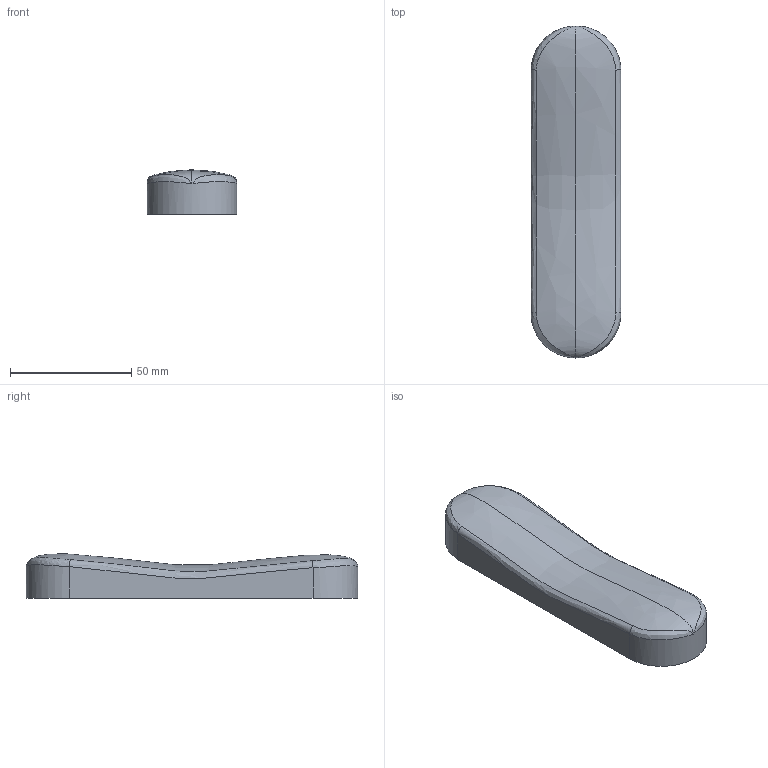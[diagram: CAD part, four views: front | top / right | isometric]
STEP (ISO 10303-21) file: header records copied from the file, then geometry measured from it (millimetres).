
FILE_DESCRIPTION (( 'STEP AP214' ), '1' );
FILE_NAME ('Rifle_Butt_Pad.step', '2019-12-18T03:08:31', ( '' ), ( '' ), 'SwSTEP 2.0', 'SolidWorks 2019', '' );
FILE_SCHEMA (( 'AUTOMOTIVE_DESIGN' ));
Length unit declared in the file: millimetre
Products named in the file (1): Rifle_Butt_Pad
Bounding box: 37.13 x 137.04 x 18.3 mm (x, y, z)
Volume: 71276 mm3; surface area: 14068.2 mm2
Topology: 1 solids, 1 shells, 19 faces, 44 edges, 25 vertices
Faces by surface type: bspline 8, cylinder 6, plane 5
Entity records: 5778 total; most frequent: CARTESIAN_POINT 5393, ORIENTED_EDGE 80, DIRECTION 56, EDGE_CURVE 40, VERTEX_POINT 25, AXIS2_PLACEMENT_3D 23, EDGE_LOOP 21, FACE_OUTER_BOUND 19
